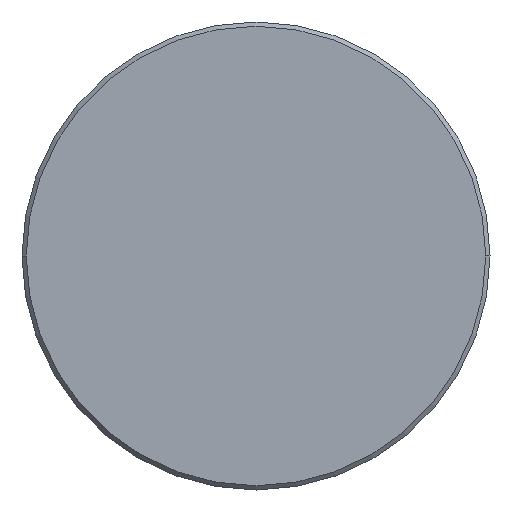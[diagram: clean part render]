
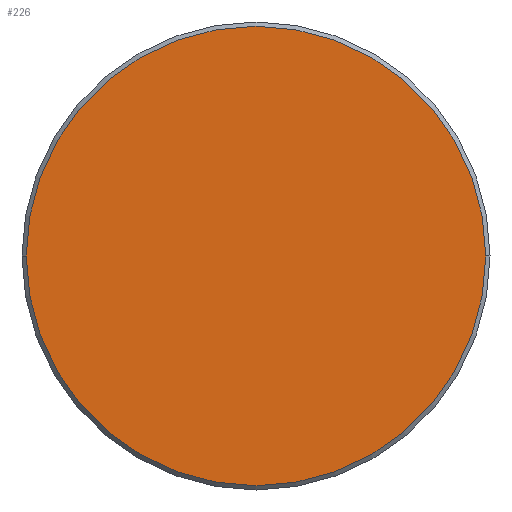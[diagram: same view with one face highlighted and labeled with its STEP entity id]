
A CAD part, left-side view. The second image highlights one B-rep face of the part: STEP entity #226.
In plain terms, the highlighted planar face has unit normal (-1, 0, 0).
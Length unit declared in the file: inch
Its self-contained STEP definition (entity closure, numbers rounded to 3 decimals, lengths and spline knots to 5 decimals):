
#15 = AXIS2_PLACEMENT_3D ( 'NONE', #281, #343, #231 ) ;
#28 = FACE_OUTER_BOUND ( 'NONE', #292, .T. ) ;
#38 = VERTEX_POINT ( 'NONE', #125 ) ;
#65 = CIRCLE ( 'NONE', #179, 0.21475 ) ;
#71 = ORIENTED_EDGE ( 'NONE', *, *, #130, .T. ) ;
#74 = PLANE ( 'NONE',  #15 ) ;
#82 = CARTESIAN_POINT ( 'NONE',  ( 0., 0.21475, 0. ) ) ;
#120 = EDGE_CURVE ( 'NONE', #288, #38, #65, .T. ) ;
#125 = CARTESIAN_POINT ( 'NONE',  ( 0., -0.21475, 0. ) ) ;
#130 = EDGE_CURVE ( 'NONE', #38, #288, #256, .T. ) ;
#142 = DIRECTION ( 'NONE',  ( -1., 0., 0. ) ) ;
#167 = DIRECTION ( 'NONE',  ( -1., 0., 0. ) ) ;
#179 = AXIS2_PLACEMENT_3D ( 'NONE', #335, #142, #202 ) ;
#190 = AXIS2_PLACEMENT_3D ( 'NONE', #370, #167, #224 ) ;
#202 = DIRECTION ( 'NONE',  ( 0., -1., 0. ) ) ;
#224 = DIRECTION ( 'NONE',  ( 0., -1., 0. ) ) ;
#226 = ADVANCED_FACE ( 'NONE', ( #28 ), #74, .T. ) ;
#231 = DIRECTION ( 'NONE',  ( 0., -1., 0. ) ) ;
#256 = CIRCLE ( 'NONE', #190, 0.21475 ) ;
#278 = ORIENTED_EDGE ( 'NONE', *, *, #120, .T. ) ;
#281 = CARTESIAN_POINT ( 'NONE',  ( 0., 0., 0. ) ) ;
#288 = VERTEX_POINT ( 'NONE', #82 ) ;
#292 = EDGE_LOOP ( 'NONE', ( #278, #71 ) ) ;
#335 = CARTESIAN_POINT ( 'NONE',  ( 0., 0., 0. ) ) ;
#343 = DIRECTION ( 'NONE',  ( -1., 0., 0. ) ) ;
#370 = CARTESIAN_POINT ( 'NONE',  ( 0., 0., 0. ) ) ;
